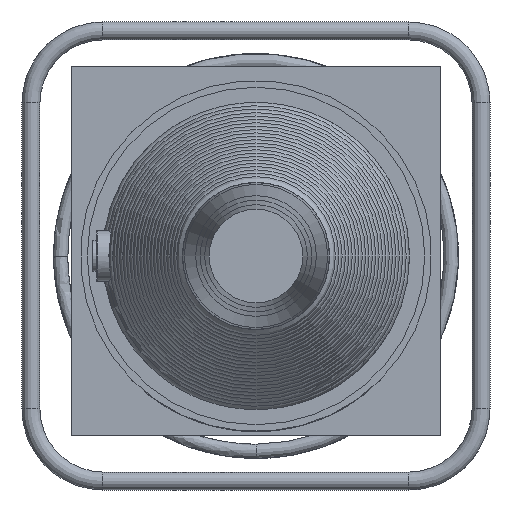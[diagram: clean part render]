
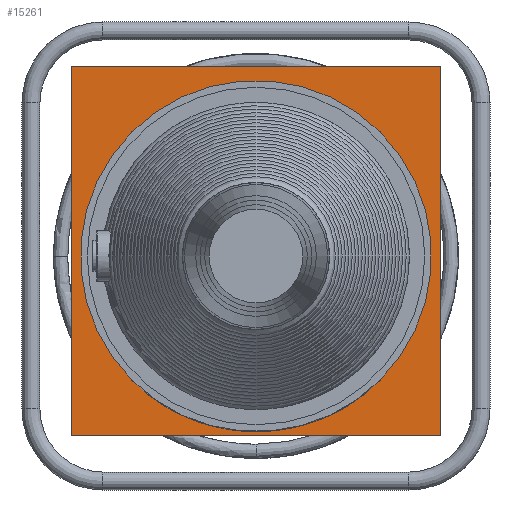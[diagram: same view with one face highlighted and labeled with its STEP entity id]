
A CAD part, left-side view. The second image highlights one B-rep face of the part: STEP entity #15261.
In plain terms, the highlighted planar face has unit normal (-1, 0, 0).
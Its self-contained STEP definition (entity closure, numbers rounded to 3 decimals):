
#1506=PLANE('',#16201);
#2364=LINE('',#40486,#3232);
#2368=LINE('',#40493,#3236);
#2371=LINE('',#40498,#3239);
#2374=LINE('',#40502,#3242);
#3232=VECTOR('',#18913,410.);
#3236=VECTOR('',#18919,410.);
#3239=VECTOR('',#18924,410.);
#3242=VECTOR('',#18929,410.);
#3552=FACE_BOUND('',#5562,.T.);
#4456=FACE_OUTER_BOUND('',#5561,.T.);
#5561=EDGE_LOOP('',(#13911,#13912,#13913,#13914));
#5562=EDGE_LOOP('',(#13915));
#5915=CIRCLE('',#15879,195.);
#7386=VERTEX_POINT('',#35528);
#7542=VERTEX_POINT('',#40484);
#7543=VERTEX_POINT('',#40485);
#7545=VERTEX_POINT('',#40492);
#7546=VERTEX_POINT('',#40497);
#9490=EDGE_CURVE('',#7386,#7386,#5915,.T.);
#9672=EDGE_CURVE('',#7542,#7543,#2364,.T.);
#9676=EDGE_CURVE('',#7543,#7545,#2368,.T.);
#9679=EDGE_CURVE('',#7545,#7546,#2371,.T.);
#9682=EDGE_CURVE('',#7546,#7542,#2374,.T.);
#13911=ORIENTED_EDGE('',*,*,#9682,.T.);
#13912=ORIENTED_EDGE('',*,*,#9672,.T.);
#13913=ORIENTED_EDGE('',*,*,#9676,.T.);
#13914=ORIENTED_EDGE('',*,*,#9679,.T.);
#13915=ORIENTED_EDGE('',*,*,#9490,.T.);
#15261=ADVANCED_FACE('',(#4456,#3552),#1506,.F.);
#15879=AXIS2_PLACEMENT_3D('',#35529,#18269,#18270);
#16201=AXIS2_PLACEMENT_3D('',#40504,#18931,#18932);
#18269=DIRECTION('center_axis',(1.,0.,0.));
#18270=DIRECTION('ref_axis',(0.,-0.259,0.966));
#18913=DIRECTION('',(0.,0.,-1.));
#18919=DIRECTION('',(0.,-1.,0.));
#18924=DIRECTION('',(0.,0.,1.));
#18929=DIRECTION('',(0.,1.,0.));
#18931=DIRECTION('center_axis',(1.,0.,0.));
#18932=DIRECTION('ref_axis',(0.,0.,1.));
#35528=CARTESIAN_POINT('',(-112.151,-50.471,188.355));
#35529=CARTESIAN_POINT('Origin',(-112.151,0.,
0.));
#40484=CARTESIAN_POINT('',(-112.151,205.,210.253));
#40485=CARTESIAN_POINT('',(-112.151,205.,-199.747));
#40486=CARTESIAN_POINT('',(-112.151,205.,210.253));
#40492=CARTESIAN_POINT('',(-112.151,-205.,-199.747));
#40493=CARTESIAN_POINT('',(-112.151,205.,-199.747));
#40497=CARTESIAN_POINT('',(-112.151,-205.,210.253));
#40498=CARTESIAN_POINT('',(-112.151,-205.,-199.747));
#40502=CARTESIAN_POINT('',(-112.151,-205.,210.253));
#40504=CARTESIAN_POINT('Origin',(-112.151,0.,
5.253));
